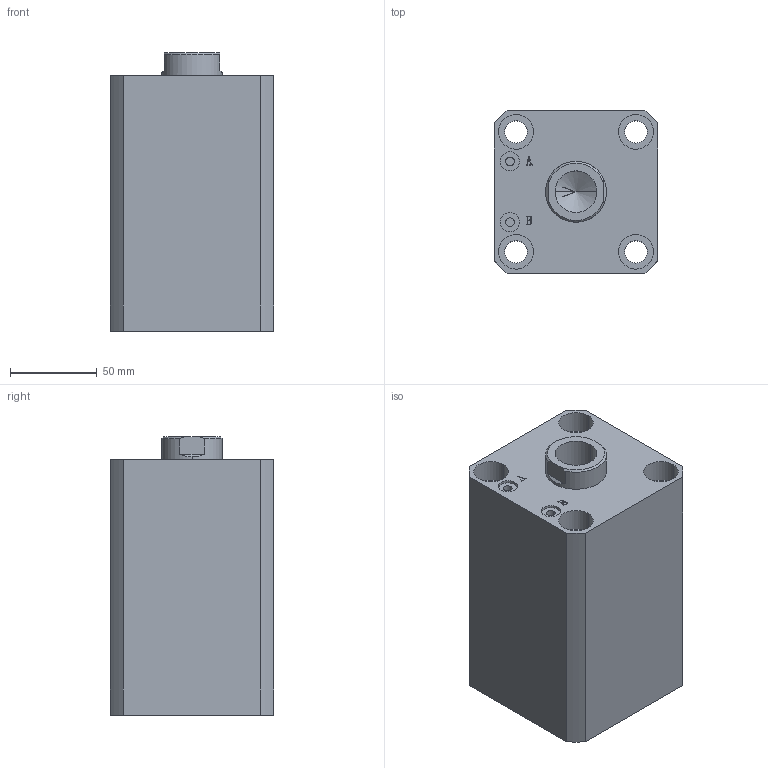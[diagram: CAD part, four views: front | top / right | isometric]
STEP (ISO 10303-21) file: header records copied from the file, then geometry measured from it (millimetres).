
FILE_DESCRIPTION (( 'STEP AP203' ), '1' );
FILE_NAME ('HTB-SDMA63-80N.STEP', '2019-10-08T01:14:08', ( '微软用户' ), ( '微软中国' ), 'SwSTEP 2.0', 'SolidWorks 2012', '' );
FILE_SCHEMA (( 'CONFIG_CONTROL_DESIGN' ));
Length unit declared in the file: millimetre
Products named in the file (3): HTB-SDMA63-80N; HTB-SDMA63-80N活塞杆; HTB-SDMA63-80掛极
Assembly tree (2 placements, depth 2):
  HTB-SDMA63-80N
    HTB-SDMA63-80掛极
    HTB-SDMA63-80N活塞杆
Bounding box: 94 x 94 x 160 mm (x, y, z)
Volume: 1007465.7 mm3; surface area: 149835.3 mm2
Topology: 2 solids, 2 shells, 137 faces, 331 edges, 217 vertices
Faces by surface type: plane 65, cylinder 46, bspline 16, torus 6, cone 4
Entity records: 5070 total; most frequent: CARTESIAN_POINT 1576, ORIENTED_EDGE 658, DIRECTION 647, EDGE_CURVE 329, AXIS2_PLACEMENT_3D 232, VERTEX_POINT 217, LINE 183, VECTOR 183
